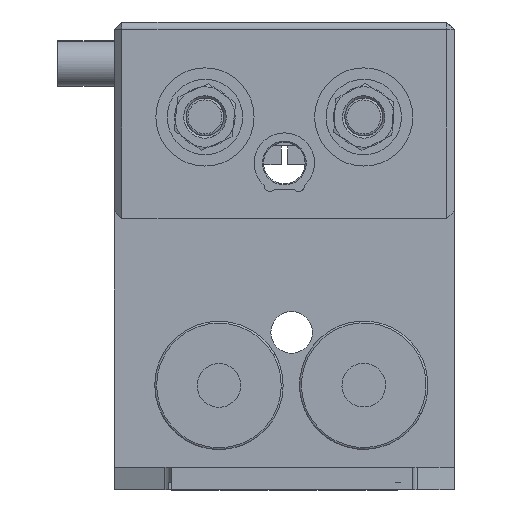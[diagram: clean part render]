
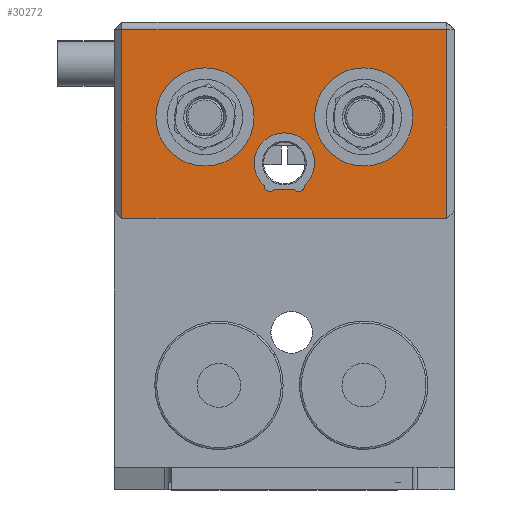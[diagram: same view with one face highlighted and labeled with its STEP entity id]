
A CAD part, front view. The second image highlights one B-rep face of the part: STEP entity #30272.
In plain terms, the highlighted planar face has unit normal (0, -1, 0).
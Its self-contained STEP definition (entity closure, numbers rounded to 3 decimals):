
#46 = VERTEX_POINT ( 'NONE', #11790 ) ;
#1010 = VERTEX_POINT ( 'NONE', #7502 ) ;
#1050 = EDGE_CURVE ( 'NONE', #46, #18182, #22083, .T. ) ;
#1287 = ORIENTED_EDGE ( 'NONE', *, *, #26041, .T. ) ;
#1295 = DIRECTION ( 'NONE',  ( 1., 0., 0. ) ) ;
#1596 = FACE_BOUND ( 'NONE', #3406, .T. ) ;
#1682 = EDGE_CURVE ( 'NONE', #4459, #1010, #11952, .T. ) ;
#2197 = CIRCLE ( 'NONE', #15966, 1.5 ) ;
#2341 = CIRCLE ( 'NONE', #28296, 1.5 ) ;
#2349 = EDGE_CURVE ( 'NONE', #18925, #27315, #6364, .T. ) ;
#2999 = DIRECTION ( 'NONE',  ( 0., -1., 0. ) ) ;
#3182 = CARTESIAN_POINT ( 'NONE',  ( -6.5, -223., -44. ) ) ;
#3385 = CARTESIAN_POINT ( 'NONE',  ( 17.48, -223., -17.14 ) ) ;
#3406 = EDGE_LOOP ( 'NONE', ( #11431, #18100, #27912, #17258, #26989, #24555 ) ) ;
#3890 = DIRECTION ( 'NONE',  ( 0., -1., 0. ) ) ;
#3989 = AXIS2_PLACEMENT_3D ( 'NONE', #3385, #13772, #4028 ) ;
#4028 = DIRECTION ( 'NONE',  ( 0., 0., -1. ) ) ;
#4126 = FACE_OUTER_BOUND ( 'NONE', #28736, .T. ) ;
#4144 = EDGE_LOOP ( 'NONE', ( #15697, #25236 ) ) ;
#4361 = VECTOR ( 'NONE', #1295, 1000. ) ;
#4438 = DIRECTION ( 'NONE',  ( 0., 0., -1. ) ) ;
#4459 = VERTEX_POINT ( 'NONE', #26204 ) ;
#4739 = AXIS2_PLACEMENT_3D ( 'NONE', #22811, #8425, #18167 ) ;
#5417 = DIRECTION ( 'NONE',  ( 0., -1., 0. ) ) ;
#5671 = AXIS2_PLACEMENT_3D ( 'NONE', #21869, #14845, #29126 ) ;
#5786 = EDGE_CURVE ( 'NONE', #27315, #16872, #29003, .T. ) ;
#5946 = ORIENTED_EDGE ( 'NONE', *, *, #17049, .T. ) ;
#5984 = EDGE_CURVE ( 'NONE', #18182, #46, #13270, .T. ) ;
#6031 = CIRCLE ( 'NONE', #3989, 13. ) ;
#6046 = LINE ( 'NONE', #3182, #4361 ) ;
#6364 = CIRCLE ( 'NONE', #23192, 1.5 ) ;
#6889 = CARTESIAN_POINT ( 'NONE',  ( 33.2, -223., -35.333 ) ) ;
#7283 = CARTESIAN_POINT ( 'NONE',  ( 41.182, -223., -36.34 ) ) ;
#7436 = DIRECTION ( 'NONE',  ( 0., -1., 0. ) ) ;
#7452 = AXIS2_PLACEMENT_3D ( 'NONE', #13877, #21359, #4438 ) ;
#7502 = CARTESIAN_POINT ( 'NONE',  ( -4.5, -223., 6. ) ) ;
#8040 = CARTESIAN_POINT ( 'NONE',  ( 59.52, -223., -30.14 ) ) ;
#8367 = DIRECTION ( 'NONE',  ( 0., 0., -1. ) ) ;
#8425 = DIRECTION ( 'NONE',  ( 0., 1., 0. ) ) ;
#8946 = CARTESIAN_POINT ( 'NONE',  ( -6.5, -223., 6. ) ) ;
#9427 = DIRECTION ( 'NONE',  ( -1., 0., 0. ) ) ;
#9448 = ORIENTED_EDGE ( 'NONE', *, *, #14959, .T. ) ;
#9662 = VERTEX_POINT ( 'NONE', #29146 ) ;
#9879 = VECTOR ( 'NONE', #9427, 1000. ) ;
#10910 = LINE ( 'NONE', #28101, #18347 ) ;
#11296 = FACE_BOUND ( 'NONE', #4144, .T. ) ;
#11431 = ORIENTED_EDGE ( 'NONE', *, *, #25279, .F. ) ;
#11736 = AXIS2_PLACEMENT_3D ( 'NONE', #18809, #31283, #14177 ) ;
#11790 = CARTESIAN_POINT ( 'NONE',  ( 59.52, -223., -4.14 ) ) ;
#11817 = LINE ( 'NONE', #14549, #26390 ) ;
#11952 = LINE ( 'NONE', #8946, #9879 ) ;
#12842 = CIRCLE ( 'NONE', #13907, 13. ) ;
#13270 = CIRCLE ( 'NONE', #11736, 13. ) ;
#13477 = CARTESIAN_POINT ( 'NONE',  ( 34.7, -223., -35.34 ) ) ;
#13772 = DIRECTION ( 'NONE',  ( 0., 1., 0. ) ) ;
#13877 = CARTESIAN_POINT ( 'NONE',  ( -6.5, -223., -14. ) ) ;
#13907 = AXIS2_PLACEMENT_3D ( 'NONE', #14074, #23785, #16451 ) ;
#14074 = CARTESIAN_POINT ( 'NONE',  ( 17.48, -223., -17.14 ) ) ;
#14177 = DIRECTION ( 'NONE',  ( 0., 0., -1. ) ) ;
#14549 = CARTESIAN_POINT ( 'NONE',  ( 81.5, -223., 6. ) ) ;
#14845 = DIRECTION ( 'NONE',  ( 0., -1., 0. ) ) ;
#14959 = EDGE_CURVE ( 'NONE', #17340, #9662, #12842, .T. ) ;
#15697 = ORIENTED_EDGE ( 'NONE', *, *, #5984, .T. ) ;
#15748 = CARTESIAN_POINT ( 'NONE',  ( 42.3, -223., -36.84 ) ) ;
#15966 = AXIS2_PLACEMENT_3D ( 'NONE', #27548, #5417, #17714 ) ;
#16256 = FACE_BOUND ( 'NONE', #28483, .T. ) ;
#16308 = LINE ( 'NONE', #26011, #21142 ) ;
#16352 = EDGE_CURVE ( 'NONE', #9662, #17340, #6031, .T. ) ;
#16451 = DIRECTION ( 'NONE',  ( 0., 0., -1. ) ) ;
#16872 = VERTEX_POINT ( 'NONE', #6889 ) ;
#17049 = EDGE_CURVE ( 'NONE', #21535, #21044, #6046, .T. ) ;
#17229 = ORIENTED_EDGE ( 'NONE', *, *, #19673, .T. ) ;
#17258 = ORIENTED_EDGE ( 'NONE', *, *, #24322, .F. ) ;
#17340 = VERTEX_POINT ( 'NONE', #26353 ) ;
#17714 = DIRECTION ( 'NONE',  ( 0., 0., -1. ) ) ;
#18100 = ORIENTED_EDGE ( 'NONE', *, *, #29657, .F. ) ;
#18167 = DIRECTION ( 'NONE',  ( 0., 0., -1. ) ) ;
#18182 = VERTEX_POINT ( 'NONE', #8040 ) ;
#18286 = EDGE_CURVE ( 'NONE', #21440, #18762, #2341, .T. ) ;
#18347 = VECTOR ( 'NONE', #25419, 1000. ) ;
#18762 = VERTEX_POINT ( 'NONE', #22950 ) ;
#18809 = CARTESIAN_POINT ( 'NONE',  ( 59.52, -223., -17.14 ) ) ;
#18925 = VERTEX_POINT ( 'NONE', #15748 ) ;
#19577 = CARTESIAN_POINT ( 'NONE',  ( 42.3, -223., -35.34 ) ) ;
#19673 = EDGE_CURVE ( 'NONE', #21044, #4459, #11817, .T. ) ;
#19875 = DIRECTION ( 'NONE',  ( 0., 0., -1. ) ) ;
#19946 = ORIENTED_EDGE ( 'NONE', *, *, #1682, .T. ) ;
#20443 = CARTESIAN_POINT ( 'NONE',  ( 81.5, -223., -44. ) ) ;
#21044 = VERTEX_POINT ( 'NONE', #20443 ) ;
#21142 = VECTOR ( 'NONE', #23954, 1000. ) ;
#21340 = VERTEX_POINT ( 'NONE', #7283 ) ;
#21359 = DIRECTION ( 'NONE',  ( 0., -1., 0. ) ) ;
#21440 = VERTEX_POINT ( 'NONE', #23998 ) ;
#21535 = VERTEX_POINT ( 'NONE', #26811 ) ;
#21869 = CARTESIAN_POINT ( 'NONE',  ( 34.7, -223., -35.34 ) ) ;
#22083 = CIRCLE ( 'NONE', #4739, 13. ) ;
#22811 = CARTESIAN_POINT ( 'NONE',  ( 59.52, -223., -17.14 ) ) ;
#22950 = CARTESIAN_POINT ( 'NONE',  ( 35.818, -223., -36.34 ) ) ;
#23127 = ORIENTED_EDGE ( 'NONE', *, *, #16352, .T. ) ;
#23192 = AXIS2_PLACEMENT_3D ( 'NONE', #19577, #7436, #19875 ) ;
#23785 = DIRECTION ( 'NONE',  ( 0., 1., 0. ) ) ;
#23954 = DIRECTION ( 'NONE',  ( 1., 0., 0. ) ) ;
#23998 = CARTESIAN_POINT ( 'NONE',  ( 34.7, -223., -36.84 ) ) ;
#24264 = DIRECTION ( 'NONE',  ( 0., 0., 1. ) ) ;
#24322 = EDGE_CURVE ( 'NONE', #16872, #21440, #28045, .T. ) ;
#24555 = ORIENTED_EDGE ( 'NONE', *, *, #2349, .F. ) ;
#25236 = ORIENTED_EDGE ( 'NONE', *, *, #1050, .T. ) ;
#25279 = EDGE_CURVE ( 'NONE', #21340, #18925, #2197, .T. ) ;
#25419 = DIRECTION ( 'NONE',  ( 0., 0., -1. ) ) ;
#25496 = CARTESIAN_POINT ( 'NONE',  ( 43.8, -223., -35.333 ) ) ;
#26011 = CARTESIAN_POINT ( 'NONE',  ( 35.818, -223., -36.34 ) ) ;
#26041 = EDGE_CURVE ( 'NONE', #1010, #21535, #10910, .T. ) ;
#26204 = CARTESIAN_POINT ( 'NONE',  ( 81.5, -223., 6. ) ) ;
#26353 = CARTESIAN_POINT ( 'NONE',  ( 17.48, -223., -30.14 ) ) ;
#26390 = VECTOR ( 'NONE', #24264, 1000. ) ;
#26465 = AXIS2_PLACEMENT_3D ( 'NONE', #26900, #2999, #27052 ) ;
#26811 = CARTESIAN_POINT ( 'NONE',  ( -4.5, -223., -44. ) ) ;
#26900 = CARTESIAN_POINT ( 'NONE',  ( 38.5, -223., -29.34 ) ) ;
#26989 = ORIENTED_EDGE ( 'NONE', *, *, #5786, .F. ) ;
#27052 = DIRECTION ( 'NONE',  ( 0., 0., -1. ) ) ;
#27315 = VERTEX_POINT ( 'NONE', #25496 ) ;
#27548 = CARTESIAN_POINT ( 'NONE',  ( 42.3, -223., -35.34 ) ) ;
#27912 = ORIENTED_EDGE ( 'NONE', *, *, #18286, .F. ) ;
#28045 = CIRCLE ( 'NONE', #5671, 1.5 ) ;
#28101 = CARTESIAN_POINT ( 'NONE',  ( -4.5, -223., -44. ) ) ;
#28296 = AXIS2_PLACEMENT_3D ( 'NONE', #13477, #3890, #8367 ) ;
#28329 = PLANE ( 'NONE',  #7452 ) ;
#28483 = EDGE_LOOP ( 'NONE', ( #9448, #23127 ) ) ;
#28736 = EDGE_LOOP ( 'NONE', ( #19946, #1287, #5946, #17229 ) ) ;
#29003 = CIRCLE ( 'NONE', #26465, 8. ) ;
#29126 = DIRECTION ( 'NONE',  ( 0., 0., -1. ) ) ;
#29146 = CARTESIAN_POINT ( 'NONE',  ( 17.48, -223., -4.14 ) ) ;
#29657 = EDGE_CURVE ( 'NONE', #18762, #21340, #16308, .T. ) ;
#30272 = ADVANCED_FACE ( 'NONE', ( #1596, #11296, #16256, #4126 ), #28329, .T. ) ;
#31283 = DIRECTION ( 'NONE',  ( 0., 1., 0. ) ) ;
